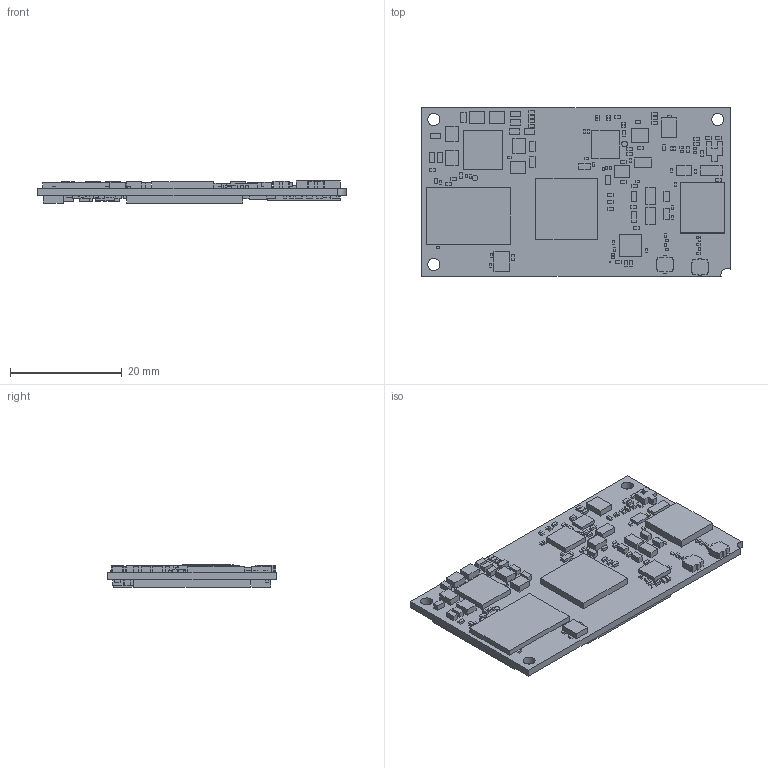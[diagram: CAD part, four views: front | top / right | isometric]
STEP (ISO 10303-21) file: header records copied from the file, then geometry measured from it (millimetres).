
FILE_DESCRIPTION(/* description */ (''),/* implementation_level */ '2;1');
FILE_NAME(/* name */ 'DART-MX91 v1.step',/* time_stamp */ '2025-04-06T12:26:15+03:00',/* author */ (''),/* organization */ (''),/* preprocessor_version */ 'ST-DEVELOPER v20.1',/* originating_system */ 'Autodesk Translation Framework v14.4.0.0',/* authorisation */ '');
FILE_SCHEMA (('AUTOMOTIVE_DESIGN { 1 0 10303 214 3 1 1 }'));
Length unit declared in the file: millimetre
Products named in the file (289): DART-MX93; Pcb; Electrical; Q1; Q5; Q4; Q7; R875; R874; R101; R100; R20; R50; U5; U801; J3; J2; J1; J12; J11; U1; C53; C58; C115; C54; C96; C87; C55; C41; C33; C132; C38; C46; C42; C130; C124; C153; C47; C147; C88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
Assembly tree (288 placements, depth 3):
  DART-MX93
    Pcb
    Electrical
      Q1
      Q5
      Q4
      Q7
      R875
      R874
      R101
      R100
      R20
      R50
      U5
      U801
      J3
      J2
      J1
      J12
      J11
      U1
      C53
      C58
      C115
      C54
      C96
      C87
      C55
      C41
      C33
      C132
      C38
      C46
      C42
      C130
      C124
      C153
      C47
      C147
      C88
      C3
      C118
      C85
      C163
      C119
      C155
      C25
      C32
      R1
      R873
      R872
      R153
      R152
      R151
      R150
      R125
      R137
      R136
      R135
      R134
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Bounding box: 55.18 x 30.11 x 3.96 mm (x, y, z)
Volume: 3328.5 mm3; surface area: 6877 mm2
Topology: 286 solids, 286 shells, 1752 faces, 3540 edges, 2360 vertices
Faces by surface type: plane 1744, cylinder 8
Full cylindrical faces by diameter (mm): 1.006 x4, 2.159 x3
Entity records: 53986 total; most frequent: CARTESIAN_POINT 8229, DIRECTION 8214, ORIENTED_EDGE 7080, EDGE_CURVE 3540, LINE 3524, VECTOR 3524, VERTEX_POINT 2360, AXIS2_PLACEMENT_3D 2345
